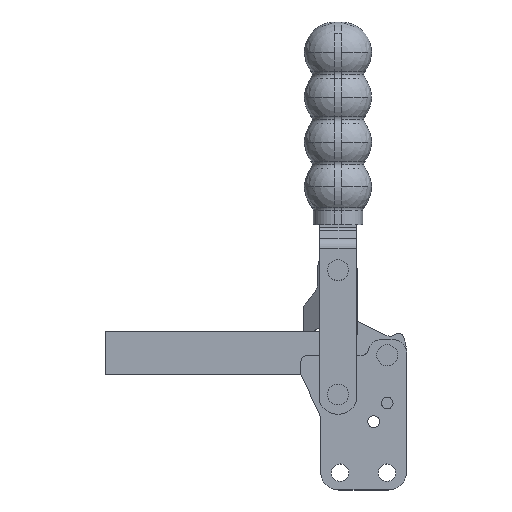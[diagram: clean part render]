
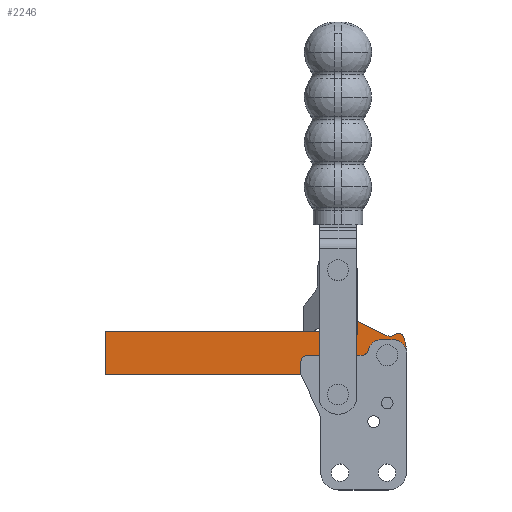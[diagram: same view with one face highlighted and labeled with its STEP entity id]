
A CAD part, top view. The second image highlights one B-rep face of the part: STEP entity #2246.
In plain terms, the highlighted planar face has unit normal (0, 0, 1).
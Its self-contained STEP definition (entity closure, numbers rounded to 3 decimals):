
#1466 = VERTEX_POINT( '', #4126 );
#1506 = VERTEX_POINT( '', #4172 );
#1558 = VERTEX_POINT( '', #4226 );
#1660 = EDGE_CURVE( '', #2140, #2416, #4340, .T. );
#1738 = EDGE_CURVE( '', #2524, #1466, #4425, .T. );
#1800 = EDGE_CURVE( '', #3456, #3654, #4492, .T. );
#1838 = EDGE_CURVE( '', #3654, #1558, #4533, .T. );
#1998 = EDGE_CURVE( '', #2416, #2140, #4709, .T. );
#2116 = VERTEX_POINT( '', #4836 );
#2128 = EDGE_CURVE( '', #3620, #3912, #4849, .T. );
#2140 = VERTEX_POINT( '', #4862 );
#2246 = ADVANCED_FACE( '', ( #4979, #4980, #4981 ), #4982, .T. );
#2264 = EDGE_CURVE( '', #1558, #2332, #5002, .T. );
#2280 = EDGE_CURVE( '', #2332, #2524, #5018, .T. );
#2332 = VERTEX_POINT( '', #5079 );
#2416 = VERTEX_POINT( '', #5173 );
#2524 = VERTEX_POINT( '', #5289 );
#2752 = EDGE_CURVE( '', #2116, #1506, #5540, .T. );
#3182 = EDGE_CURVE( '', #3578, #3620, #6023, .T. );
#3302 = EDGE_CURVE( '', #3912, #3456, #6156, .T. );
#3456 = VERTEX_POINT( '', #6329 );
#3574 = EDGE_CURVE( '', #1506, #2116, #6460, .T. );
#3578 = VERTEX_POINT( '', #6464 );
#3620 = VERTEX_POINT( '', #6508 );
#3654 = VERTEX_POINT( '', #6552 );
#3716 = EDGE_CURVE( '', #1466, #3578, #6626, .T. );
#3912 = VERTEX_POINT( '', #6857 );
#4126 = CARTESIAN_POINT( '', ( 33.906, 61.885, 3. ) );
#4172 = CARTESIAN_POINT( '', ( 31.86, 54.7, 3. ) );
#4226 = CARTESIAN_POINT( '', ( -87.42, 46.985, 3. ) );
#4340 = CIRCLE( '', #7422, 4.773 );
#4425 = CIRCLE( '', #7532, 22. );
#4492 = LINE( '', #7626, #7627 );
#4533 = LINE( '', #7683, #7684 );
#4709 = CIRCLE( '', #7928, 4.773 );
#4836 = CARTESIAN_POINT( '', ( 22.34, 54.7, 3. ) );
#4849 = LINE( '', #8113, #8114 );
#4862 = CARTESIAN_POINT( '', ( 2.978, 63.088, 3. ) );
#4979 = FACE_OUTER_BOUND( '', #8279, .T. );
#4980 = FACE_BOUND( '', #8280, .T. );
#4981 = FACE_BOUND( '', #8281, .T. );
#4982 = PLANE( '', #8282 );
#5002 = LINE( '', #8312, #8313 );
#5018 = CIRCLE( '', #8348, 8. );
#5079 = CARTESIAN_POINT( '', ( 27.08, 46.7, 3. ) );
#5173 = CARTESIAN_POINT( '', ( 12.523, 63.088, 3. ) );
#5289 = CARTESIAN_POINT( '', ( 35.1, 54.68, 3. ) );
#5540 = CIRCLE( '', #9098, 4.76 );
#6023 = CIRCLE( '', #9813, 3.02 );
#6156 = CIRCLE( '', #9992, 8. );
#6329 = CARTESIAN_POINT( '', ( -0.156, 64.308, 3. ) );
#6460 = CIRCLE( '', #10412, 4.76 );
#6464 = CARTESIAN_POINT( '', ( 30.171, 63.005, 3. ) );
#6508 = CARTESIAN_POINT( '', ( 27.014, 62.677, 3. ) );
#6552 = CARTESIAN_POINT( '', ( -87.376, 64.525, 3. ) );
#6626 = CIRCLE( '', #10621, 2.4 );
#6857 = CARTESIAN_POINT( '', ( 11.227, 70.294, 3. ) );
#7422 = AXIS2_PLACEMENT_3D( '', #11414, #11415, #11416 );
#7532 = AXIS2_PLACEMENT_3D( '', #11509, #11510, #11511 );
#7626 = CARTESIAN_POINT( '', ( -0.156, 64.308, 3. ) );
#7627 = VECTOR( '', #11598, 1. );
#7683 = CARTESIAN_POINT( '', ( -87.376, 64.525, 3. ) );
#7684 = VECTOR( '', #11652, 1. );
#7928 = AXIS2_PLACEMENT_3D( '', #11860, #11861, #11862 );
#8113 = CARTESIAN_POINT( '', ( 27.014, 62.677, 3. ) );
#8114 = VECTOR( '', #12012, 1. );
#8279 = EDGE_LOOP( '', ( #12169, #12170, #12171, #12172, #12173, #12174, #12175, #12176, #12177 ) );
#8280 = EDGE_LOOP( '', ( #12178, #12179 ) );
#8281 = EDGE_LOOP( '', ( #12180, #12181 ) );
#8282 = AXIS2_PLACEMENT_3D( '', #12182, #12183, #12184 );
#8312 = CARTESIAN_POINT( '', ( -87.42, 46.985, 3. ) );
#8313 = VECTOR( '', #12213, 1. );
#8348 = AXIS2_PLACEMENT_3D( '', #12223, #12224, #12225 );
#9098 = AXIS2_PLACEMENT_3D( '', #12847, #12848, #12849 );
#9813 = AXIS2_PLACEMENT_3D( '', #13495, #13496, #13497 );
#9992 = AXIS2_PLACEMENT_3D( '', #13654, #13655, #13656 );
#10412 = AXIS2_PLACEMENT_3D( '', #14018, #14019, #14020 );
#10621 = AXIS2_PLACEMENT_3D( '', #14243, #14244, #14245 );
#11414 = CARTESIAN_POINT( '', ( 7.751, 63.088, 3. ) );
#11415 = DIRECTION( '', ( 0., 0., 1. ) );
#11416 = DIRECTION( '', ( 1., 0., 0. ) );
#11509 = CARTESIAN_POINT( '', ( 13.1, 54.735, 3. ) );
#11510 = DIRECTION( '', ( 0., 0., 1. ) );
#11511 = DIRECTION( '', ( 1., -0.002, 0. ) );
#11598 = DIRECTION( '', ( -1., 0.002, 0. ) );
#11652 = DIRECTION( '', ( -0.002, -1., 0. ) );
#11860 = CARTESIAN_POINT( '', ( 7.751, 63.088, 3. ) );
#11861 = DIRECTION( '', ( 0., 0., 1. ) );
#11862 = DIRECTION( '', ( 1., 0., 0. ) );
#12012 = DIRECTION( '', ( -0.901, 0.435, 0. ) );
#12169 = ORIENTED_EDGE( '', *, *, #2264, .T. );
#12170 = ORIENTED_EDGE( '', *, *, #2280, .T. );
#12171 = ORIENTED_EDGE( '', *, *, #1738, .T. );
#12172 = ORIENTED_EDGE( '', *, *, #3716, .T. );
#12173 = ORIENTED_EDGE( '', *, *, #3182, .T. );
#12174 = ORIENTED_EDGE( '', *, *, #2128, .T. );
#12175 = ORIENTED_EDGE( '', *, *, #3302, .T. );
#12176 = ORIENTED_EDGE( '', *, *, #1800, .T. );
#12177 = ORIENTED_EDGE( '', *, *, #1838, .T. );
#12178 = ORIENTED_EDGE( '', *, *, #3574, .F. );
#12179 = ORIENTED_EDGE( '', *, *, #2752, .F. );
#12180 = ORIENTED_EDGE( '', *, *, #1998, .F. );
#12181 = ORIENTED_EDGE( '', *, *, #1660, .F. );
#12182 = CARTESIAN_POINT( '', ( 27.1, 54.7, 3. ) );
#12183 = DIRECTION( '', ( 0., 0., 1. ) );
#12184 = DIRECTION( '', ( 1., 0., 0. ) );
#12213 = DIRECTION( '', ( 1., -0.002, 0. ) );
#12223 = CARTESIAN_POINT( '', ( 27.1, 54.7, 3. ) );
#12224 = DIRECTION( '', ( 0., 0., 1. ) );
#12225 = DIRECTION( '', ( -0.002, -1., 0. ) );
#12847 = CARTESIAN_POINT( '', ( 27.1, 54.7, 3. ) );
#12848 = DIRECTION( '', ( 0., 0., 1. ) );
#12849 = DIRECTION( '', ( 1., 0., 0. ) );
#13495 = CARTESIAN_POINT( '', ( 28.327, 65.397, 3. ) );
#13496 = DIRECTION( '', ( 0., 0., -1. ) );
#13497 = DIRECTION( '', ( 0.611, -0.792, 0. ) );
#13654 = CARTESIAN_POINT( '', ( 7.751, 63.088, 3. ) );
#13655 = DIRECTION( '', ( 0., 0., 1. ) );
#13656 = DIRECTION( '', ( 0.435, 0.901, 0. ) );
#14018 = CARTESIAN_POINT( '', ( 27.1, 54.7, 3. ) );
#14019 = DIRECTION( '', ( 0., 0., 1. ) );
#14020 = DIRECTION( '', ( 1., 0., 0. ) );
#14243 = CARTESIAN_POINT( '', ( 31.636, 61.105, 3. ) );
#14244 = DIRECTION( '', ( 0., 0., 1. ) );
#14245 = DIRECTION( '', ( 0.946, 0.325, 0. ) );
